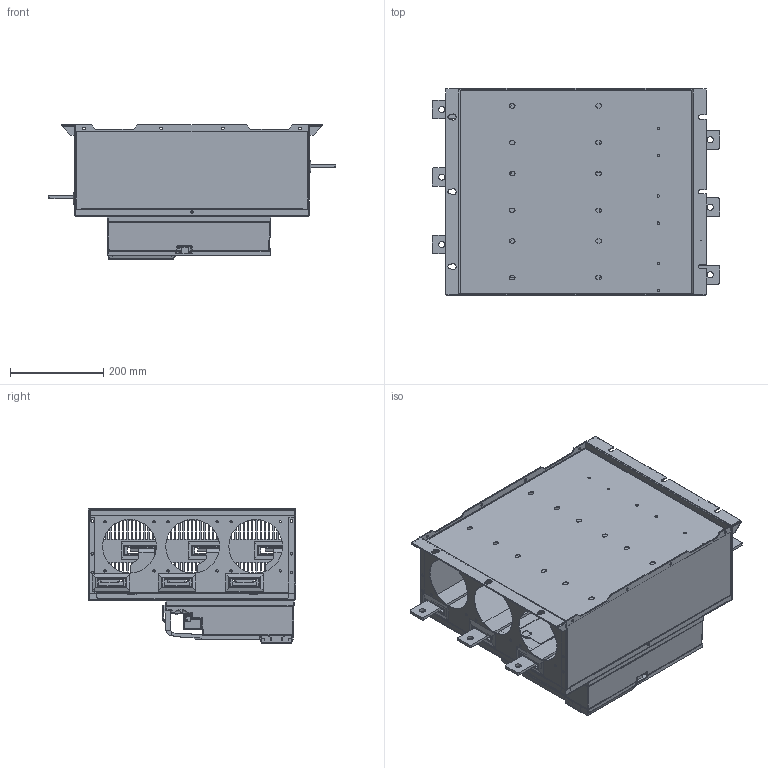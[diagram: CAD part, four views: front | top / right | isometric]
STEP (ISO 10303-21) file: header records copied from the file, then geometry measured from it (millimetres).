
FILE_DESCRIPTION(('STEP AP203'), '1');
FILE_NAME('SNI 132-400 êÂò', '2024-05-06T18:56:42', ('admin'), (''), 'C3D Converter', 'C3D Toolkit', '');
FILE_SCHEMA(('CONFIG_CONTROL_DESIGN'));
Length unit declared in the file: millimetre
Products named in the file (42): SNI-600/700-06; SNI; 7000-DUANZI-750-1P_AF0_5_RNM; 7000-DUANZI-750-1P_AF1_5_RNM; 7000-DUANZI-750-1P_AF2_5_RNM; 7000-DUANZI-750-1P_AF3_5_RNM; 7000-DUANZI-750-1P_AF4_5_RNM; 7000-DUANZI-750-1P_AF5_5_RNM; 7000-DUANZI-750-1P_AF6_5_RNM; 7000-DUANZI-750-1P_AF7_5_RNM; 7000-DUANZI-750-1P_AF8_5_RNM; 7000-DUANZI-750-1P_AF9_5_RNM; PRT0001_1_RNM; 7000-DUANZI-750-1P_AF10_5_RNM; 7000-DUANZI-750-1P_AF11_5_RNM
Assembly tree (66 placements, depth 4):
  SNI-600/700-06
    SNI
    SNI
    SNI
    SNI
    SNI
    SNI  x3
      SNI
      SNI
    SNI
    SNI
    SNI  x6
    SNI
      SNI
      SNI
      SNI  x3
        SNI
      SNI
        SNI  x5
      SNI
        7000-DUANZI-750-1P_AF0_5_RNM
        7000-DUANZI-750-1P_AF1_5_RNM
        7000-DUANZI-750-1P_AF2_5_RNM
        7000-DUANZI-750-1P_AF3_5_RNM
        7000-DUANZI-750-1P_AF4_5_RNM
        7000-DUANZI-750-1P_AF5_5_RNM
        7000-DUANZI-750-1P_AF6_5_RNM
        7000-DUANZI-750-1P_AF7_5_RNM
        7000-DUANZI-750-1P_AF8_5_RNM
        7000-DUANZI-750-1P_AF9_5_RNM
        PRT0001_1_RNM
      SNI
        SNI  x10
      SNI
        7000-DUANZI-750-1P_AF10_5_RNM
        7000-DUANZI-750-1P_AF11_5_RNM
      SNI
      SNI
        SNI
    SNI
      SNI
      SNI
      SNI
      SNI
Bounding box: 614.4 x 443.5 x 287.1 mm (x, y, z)
Volume: 2238550.7 mm3; surface area: 2694062.5 mm2
Topology: 58 solids, 62 shells, 4945 faces, 13090 edges, 8400 vertices
Faces by surface type: plane 3470, cylinder 1187, bspline 117, cone 72, torus 52, sphere 37, extrusion 7, revolution 3
Full cylindrical faces by diameter (mm): 0.5 x2, 0.8 x9, 1 x9, 1.2 x1, 2 x6, 2.3 x10, 3 x49, 3.2 x4, 3.3 x6, 3.34 x1, 3.8 x33, 4 x50, 4.064 x4, 5 x22, 5.4 x64, 7 x2, 7.2 x19, 9 x12, 13 x6, 14 x3, 115 x3
Entity records: 165137 total; most frequent: CARTESIAN_POINT 43451, ORIENTED_EDGE 18693, DIRECTION 17530, EDGE_CURVE 9367, VECTOR 7083, LINE 7076, VERTEX_POINT 6167, AXIS2_PLACEMENT_3D 5222
